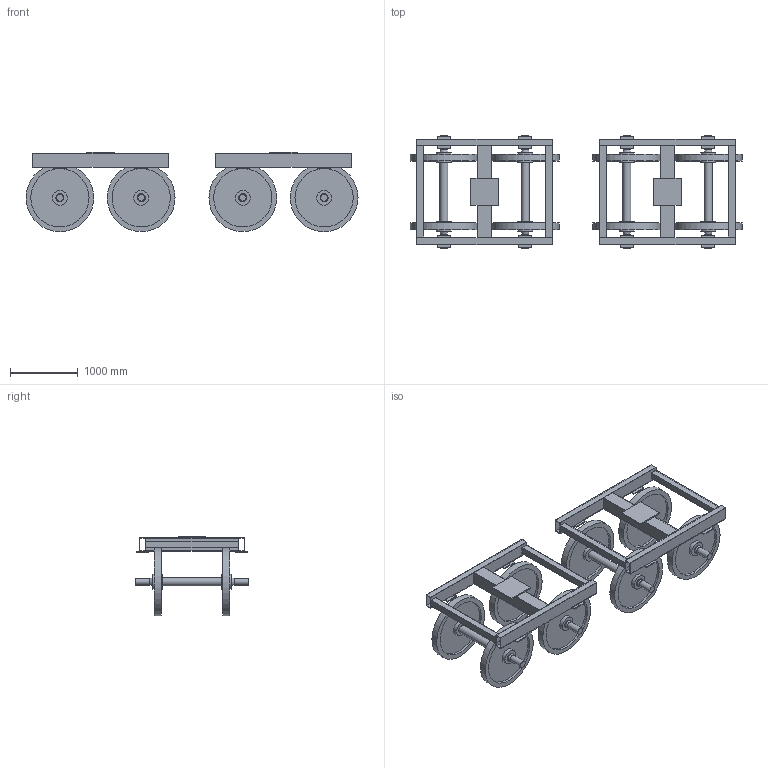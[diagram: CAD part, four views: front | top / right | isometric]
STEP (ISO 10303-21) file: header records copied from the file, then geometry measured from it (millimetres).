
FILE_DESCRIPTION(('Open CASCADE Model'),'2;1');
FILE_NAME('Open CASCADE Shape Model','2026-10-19T10:06:08',('Author'),( 'Open CASCADE'),'Open CASCADE STEP processor 7.8','Open CASCADE 7.8' ,'Unknown');
FILE_SCHEMA(('AUTOMOTIVE_DESIGN { 1 0 10303 214 1 1 1 1 }'));
Length unit declared in the file: millimetre
Products named in the file (19): DT2_two_truck_arrangement; truck_1; DT2-F01; DT2-F02; DT2-F03; DT2-F04; DT2-F05; DT2-P01; DT2-P02; DT2-P03; DT2-P04; DT2-P05; DT2-A01; DT2-W01; DT2-W02; DT2-A02; DT2-W03; DT2-W04; truck_2
Assembly tree (34 placements, depth 3):
  DT2_two_truck_arrangement
    truck_1
      DT2-F01
      DT2-F02
      DT2-F03
      DT2-F04
      DT2-F05
      DT2-P01
      DT2-P02
      DT2-P03
      DT2-P04
      DT2-P05
      DT2-A01
      DT2-W01
      DT2-W02
      DT2-A02
      DT2-W03
      DT2-W04
    truck_2
      DT2-F01
      DT2-F02
      DT2-F03
      DT2-F04
      DT2-F05
      DT2-P01
      DT2-P02
      DT2-P03
      DT2-P04
      DT2-P05
      DT2-A01
      DT2-W01
      DT2-W02
      DT2-A02
      DT2-W03
      DT2-W04
Bounding box: 4900 x 1680 x 1170 mm (x, y, z)
Volume: 455346939.1 mm3; surface area: 38748157.8 mm2
Topology: 32 solids, 32 shells, 284 faces, 548 edges, 360 vertices
Faces by surface type: plane 216, cylinder 60, cone 8
Full cylindrical faces by diameter (mm): 100 x8, 120 x12, 220 x16, 860 x16, 1000 x8
Entity records: 7647 total; most frequent: CARTESIAN_POINT 1267, DIRECTION 1148, LINE 622, VECTOR 622, ORIENTED_EDGE 548, PCURVE 548, DEFINITIONAL_REPRESENTATION 548, EDGE_CURVE 274
